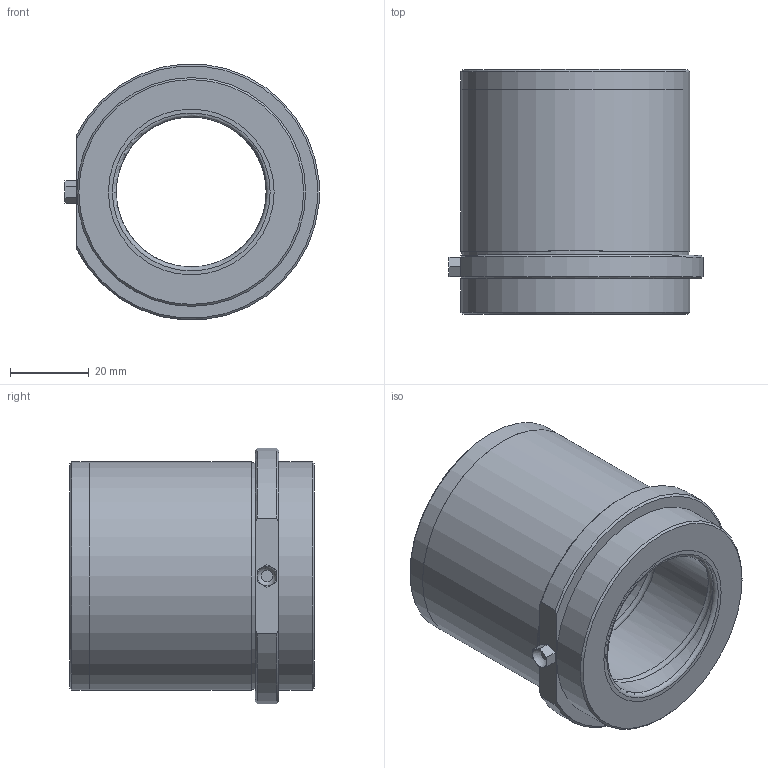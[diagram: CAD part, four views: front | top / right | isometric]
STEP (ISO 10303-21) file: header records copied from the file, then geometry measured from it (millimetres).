
FILE_DESCRIPTION( ( 'STEP AP203' ), '1' );
FILE_NAME( 'C:/Documents and Settings/EXPER/Desktop/Cuma/24 03 2009/D26/D26_38X47.step', '2003-01-02T03:32:38', ( ' ' ), ( ' ' ), 'XStep 1.0', ' ', ' ' );
FILE_SCHEMA( ( 'CONFIG_CONTROL_DESIGN' ) );
Length unit declared in the file: metre
Products named in the file (3): 1; 2; 3
Bounding box: 64.38 x 62 x 64.85 mm (x, y, z)
Volume: 96777.2 mm3; surface area: 39159.5 mm2
Topology: 3 solids, 3 shells, 49 faces, 105 edges, 67 vertices
Faces by surface type: plane 24, cylinder 10, cone 7, torus 6, sphere 1, bspline 1
Full cylindrical faces by diameter (mm): 4 x2, 40 x2, 57.5 x1, 57.98 x2, 58 x1
Entity records: 3269 total; most frequent: CARTESIAN_POINT 2180, DIRECTION 206, ORIENTED_EDGE 154, AXIS2_PLACEMENT_3D 89, EDGE_LOOP 82, EDGE_CURVE 77, FACE_OUTER_BOUND 63, VERTEX_POINT 59
